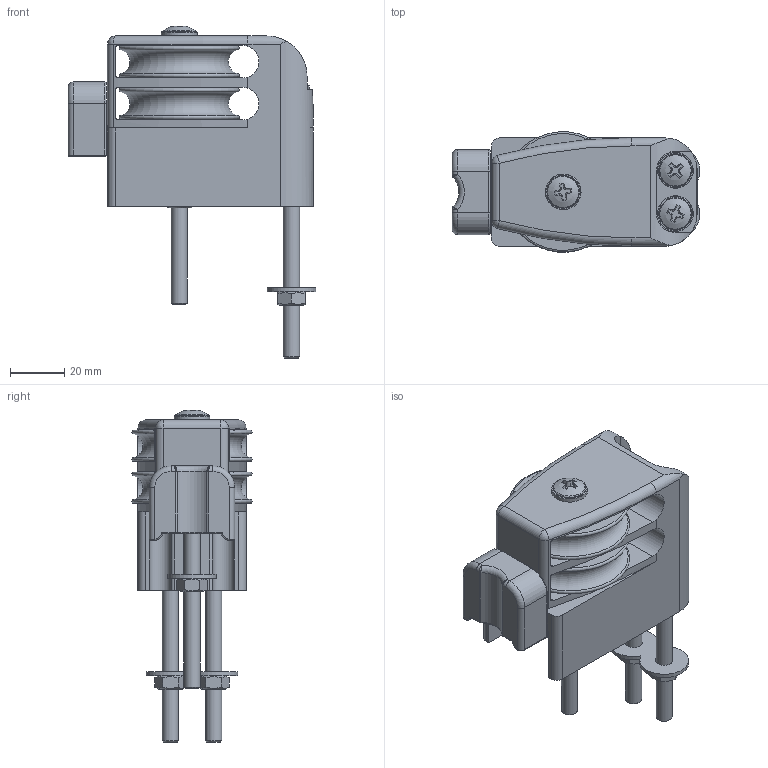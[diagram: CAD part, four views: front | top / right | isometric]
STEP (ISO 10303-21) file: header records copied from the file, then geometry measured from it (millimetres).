
FILE_DESCRIPTION(/* description */ (''),/* implementation_level */ '2;1');
FILE_NAME(/* name */ '\\SERVER2K12\Disegni CAD\Cad Library\3D - STP\Cars\4Race\4274.stp',/* time_stamp */ '2018-10-05T11:33:33+02:00',/* author */ ('francesca'),/* organization */ (''),/* preprocessor_version */ 'ST-DEVELOPER v16.5',/* originating_system */ 'Autodesk Inventor 2017',/* authorisation */ '');
FILE_SCHEMA (('AUTOMOTIVE_DESIGN { 1 0 10303 214 3 1 1 }'));
Length unit declared in the file: millimetre
Products named in the file (1): 18100505
Bounding box: 91.48 x 44.35 x 122.69 mm (x, y, z)
Volume: 131276.4 mm3; surface area: 50405.1 mm2
Topology: 1 solids, 3 shells, 387 faces, 939 edges, 637 vertices
Faces by surface type: plane 134, sphere 103, cylinder 90, cone 32, torus 22, bspline 6
Full cylindrical faces by diameter (mm): 6 x8, 6.2 x9, 6.4 x3, 6.5 x3, 10 x4, 10.1 x1, 12 x3, 13.2 x3, 18 x1, 21.2 x1, 29 x1
Entity records: 10278 total; most frequent: CARTESIAN_POINT 2228, DIRECTION 1742, ORIENTED_EDGE 1406, AXIS2_PLACEMENT_3D 747, EDGE_CURVE 703, EDGE_LOOP 602, VERTEX_POINT 523, FACE_OUTER_BOUND 387
